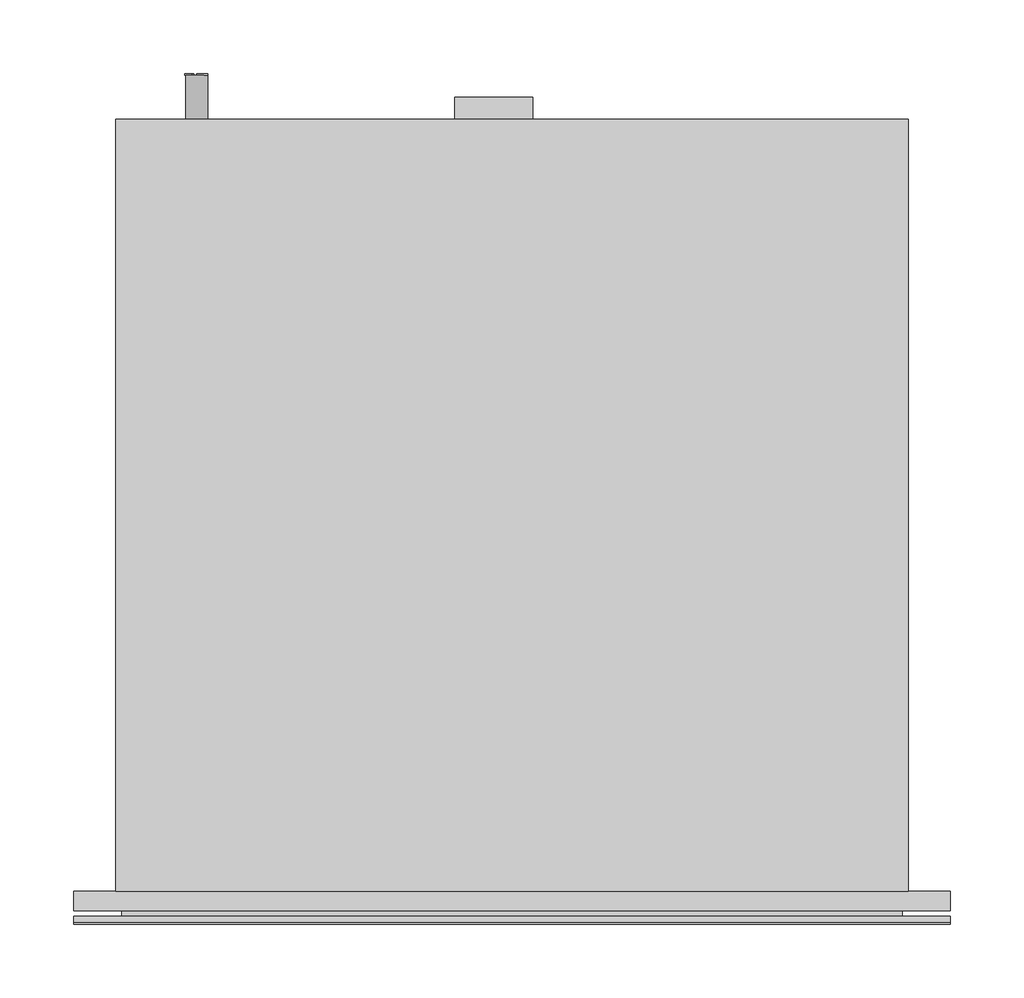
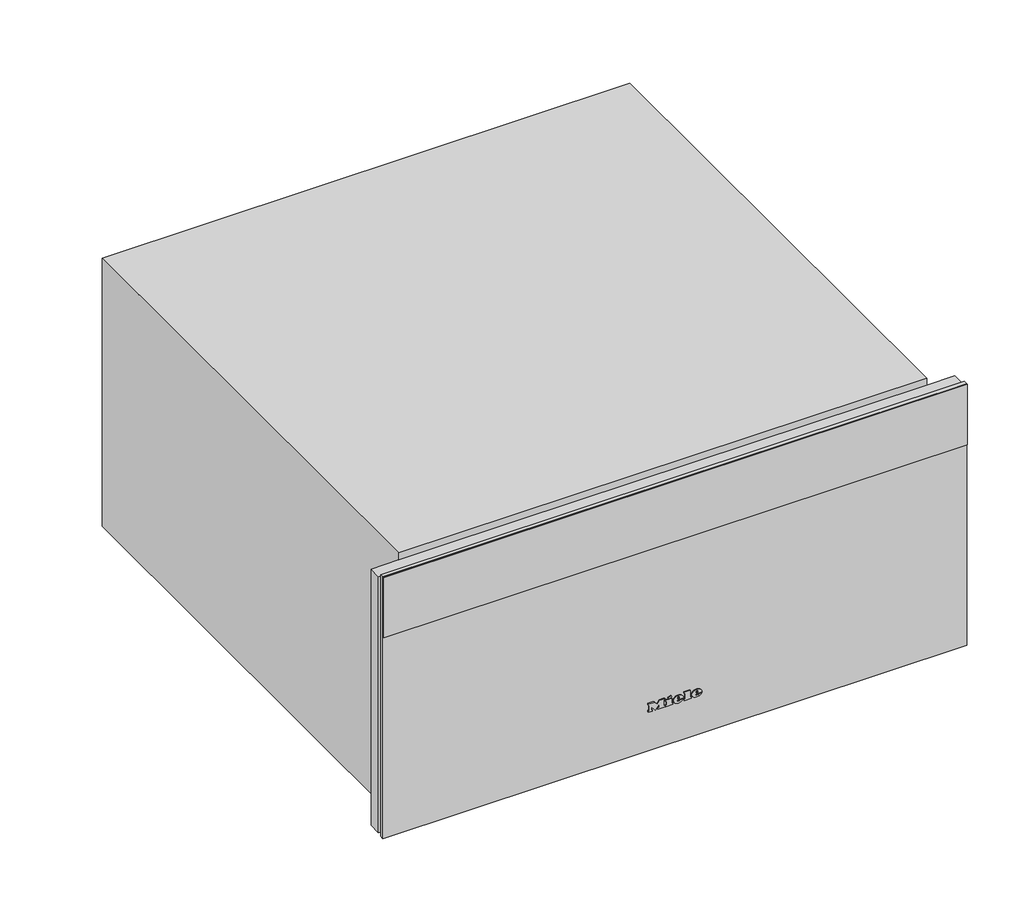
# Not in any storey: 1 proxy.
"""IFC4 building model written with IfcOpenShell, lengths in millimetres."""

import ifcopenshell
import ifcopenshell.guid

model = None  # the IFC model being written
_history = None  # IfcOwnerHistory: only IFC2X3 demands one
_inside = {}  # id of a spatial element -> (the spatial element, [elements in it])
_under = {}  # id of a project, library or spatial element -> (it, [spatial elements below it])
_declared = {}  # id of a project -> (the project, [libraries it declares])
_typed = {}  # id of a type object -> (the type object, [elements of that type])
_made_of = {}  # id of a material, layer set ... -> (it, [elements and type objects made of it])


def new_model(schema):
    """Start an empty IFC model of exactly this schema.

    Asked for "IFC4X3", IfcOpenShell would pick the latest addendum, in which some entities
    have other attributes; the version numbers below select the first issue.
    IFC2X3 requires an IfcOwnerHistory on every rooted entity: one is made here for all.
    """
    global model, _history
    if schema == "IFC4X3":
        model = ifcopenshell.file(schema_version=(4, 3, 0, 0))
    else:
        model = ifcopenshell.file(schema=schema)
    _inside.clear()
    _under.clear()
    _declared.clear()
    _typed.clear()
    _made_of.clear()
    _history = None
    if model.schema == "IFC2X3":
        org = make("IfcOrganization", Name="unknown")
        user = make(
            "IfcPersonAndOrganization",
            ThePerson=make("IfcPerson", FamilyName="unknown"),
            TheOrganization=org,
        )
        app = make(
            "IfcApplication",
            ApplicationDeveloper=org,
            Version="unknown",
            ApplicationFullName="unknown",
            ApplicationIdentifier="unknown",
        )
        _history = make(
            "IfcOwnerHistory",
            OwningUser=user,
            OwningApplication=app,
            ChangeAction="ADDED",
            CreationDate=0,
        )
    return model


def make(cls, **values):
    """One entity of the class cls with the attributes given. An attribute that is None is left unset."""
    return model.create_entity(
        cls, **{name: value for name, value in values.items() if value is not None}
    )


def rooted(cls, **values):
    """An entity with a GlobalId (a new one), such as an element, a storey or a relation."""
    return make(cls, GlobalId=ifcopenshell.guid.new(), OwnerHistory=_history, **values)


def si_unit(unit_type, name, prefix=None):
    """IfcSIUnit, for example si_unit("LENGTHUNIT", "METRE", prefix="MILLI")."""
    return make("IfcSIUnit", UnitType=unit_type, Prefix=prefix, Name=name)


def assignment(units):
    """IfcUnitAssignment: the units of a project."""
    return None if units is None else make("IfcUnitAssignment", Units=units)


def point(xyz):
    """IfcCartesianPoint."""
    return None if xyz is None else make("IfcCartesianPoint", Coordinates=xyz)


def direction(xyz):
    """IfcDirection."""
    return None if xyz is None else make("IfcDirection", DirectionRatios=xyz)


def frame(location, z_axis=None, x_axis=None):
    """IfcAxis2Placement3D, a coordinate frame: its origin and axes. An axis left out is left unset."""
    return make(
        "IfcAxis2Placement3D",
        Location=point(location),
        Axis=direction(z_axis),
        RefDirection=direction(x_axis),
    )


def frame_2d(location, x_axis=None):
    """IfcAxis2Placement2D, a coordinate frame in the plane: its origin and x axis."""
    return make(
        "IfcAxis2Placement2D", Location=point(location), RefDirection=direction(x_axis)
    )


def origin():
    """The frame at (0, 0, 0) with its axes left unset."""
    return frame((0.0, 0.0, 0.0))


def place(relative_to, where):
    """IfcLocalPlacement: puts the frame where relative to a parent placement (None: the world)."""
    return make(
        "IfcLocalPlacement", PlacementRelTo=relative_to, RelativePlacement=where
    )


def context(
    kind, dimensions, precision=None, world=None, true_north=None, identifier=None
):
    """IfcGeometricRepresentationContext, for example the 3D "Model" context."""
    return make(
        "IfcGeometricRepresentationContext",
        ContextIdentifier=identifier,
        ContextType=kind,
        CoordinateSpaceDimension=dimensions,
        Precision=precision,
        WorldCoordinateSystem=world,
        TrueNorth=true_north,
    )


def project(units=None, contexts=None):
    """IfcProject with its units and contexts."""
    return rooted(
        "IfcProject",
        Name="project",
        RepresentationContexts=contexts,
        UnitsInContext=assignment(units),
    )


def spatial(cls, under=None, at=None, **own):
    """A site, building, storey or space (cls), placed at a placement, below another one or the project."""
    s = rooted(cls, ObjectPlacement=at, **own)
    if under is not None:
        _under.setdefault(under.id(), (under, []))[1].append(s)
    return s


def polyline(points):
    """IfcPolyline through the points."""
    return make("IfcPolyline", Points=[point(p) for p in points])


def circle_curve(where, radius):
    """IfcCircle in the frame where."""
    return make("IfcCircle", Position=where, Radius=radius)


def ellipse_curve(where, semi_axis1, semi_axis2):
    """IfcEllipse in the frame where."""
    return make(
        "IfcEllipse", Position=where, SemiAxis1=semi_axis1, SemiAxis2=semi_axis2
    )


def trimmed(basis, trim1, trim2, sense, master):
    """IfcTrimmedCurve: the piece of a basis curve between two trims."""
    return make(
        "IfcTrimmedCurve",
        BasisCurve=basis,
        Trim1=trim1,
        Trim2=trim2,
        SenseAgreement=sense,
        MasterRepresentation=master,
    )


def segment(curve, same_sense, transition):
    """IfcCompositeCurveSegment."""
    return make(
        "IfcCompositeCurveSegment",
        Transition=transition,
        SameSense=same_sense,
        ParentCurve=curve,
    )


def composite_curve(segments, self_intersect=None):
    """IfcCompositeCurve: segments joined end to end."""
    return make("IfcCompositeCurve", Segments=segments, SelfIntersect=self_intersect)


def outline(outer, holes=None, kind="AREA"):
    """IfcArbitraryClosedProfileDef: a profile drawn as a closed curve; with holes, ...WithVoids."""
    if holes is None:
        return make("IfcArbitraryClosedProfileDef", ProfileType=kind, OuterCurve=outer)
    return make(
        "IfcArbitraryProfileDefWithVoids",
        ProfileType=kind,
        OuterCurve=outer,
        InnerCurves=holes,
    )


def extrude(swept, where, along, depth):
    """IfcExtrudedAreaSolid: the profile swept, set in the frame where, extruded along a direction by depth."""
    return make(
        "IfcExtrudedAreaSolid",
        SweptArea=swept,
        Position=where,
        ExtrudedDirection=direction(along),
        Depth=depth,
    )


def faces_of(points, faces, orient=None, outer=None):
    """IfcFace entities. A face is a list of loops; a loop is a list of indices into points, from 0.

    orient and outer hold one flag for each loop. By default every Orientation is true, the
    first loop of a face is its IfcFaceOuterBound and the others are IfcFaceBound.
    """
    made = []
    for i, loops in enumerate(faces):
        bounds = []
        for j, loop in enumerate(loops):
            is_outer = j == 0 if outer is None else outer[i][j]
            bounds.append(
                make(
                    "IfcFaceOuterBound" if is_outer else "IfcFaceBound",
                    Bound=make("IfcPolyLoop", Polygon=[points[k] for k in loop]),
                    Orientation=True if orient is None else orient[i][j],
                )
            )
        made.append(make("IfcFace", Bounds=bounds))
    return made


def faceted_brep(points, faces, orient=None, outer=None, voids=None):
    """IfcFacetedBrep: a solid bounded by flat faces; with voids (closed shells), ...WithVoids."""
    shared = [point(p) for p in points]
    hull = make("IfcClosedShell", CfsFaces=faces_of(shared, faces, orient, outer))
    if voids is None:
        return make("IfcFacetedBrep", Outer=hull)
    return make(
        "IfcFacetedBrepWithVoids",
        Outer=hull,
        Voids=[
            make(cls, CfsFaces=faces_of(shared, fs, o, b)) for cls, fs, o, b in voids
        ],
    )


def shape(context_of_items, identifier, shape_type, items):
    """IfcShapeRepresentation: the items that make up one representation, for example the "Body"."""
    return make(
        "IfcShapeRepresentation",
        ContextOfItems=context_of_items,
        RepresentationIdentifier=identifier,
        RepresentationType=shape_type,
        Items=items,
    )


def source(mapping_origin, context_of_items, identifier, shape_type, items):
    """IfcRepresentationMap: a shape defined once, which mapped items show again and again."""
    return make(
        "IfcRepresentationMap",
        MappingOrigin=mapping_origin,
        MappedRepresentation=shape(context_of_items, identifier, shape_type, items),
    )


def transform(
    local_origin,
    x_axis=None,
    y_axis=None,
    z_axis=None,
    scale=None,
    scale2=None,
    scale3=None,
    uniform=True,
):
    """IfcCartesianTransformationOperator3D, or its non-uniform kind. x_axis, y_axis, z_axis: its Axis1, 2, 3."""
    if uniform:
        return make(
            "IfcCartesianTransformationOperator3D",
            Axis1=direction(x_axis),
            Axis2=direction(y_axis),
            LocalOrigin=point(local_origin),
            Scale=scale,
            Axis3=direction(z_axis),
        )
    return make(
        "IfcCartesianTransformationOperator3DnonUniform",
        Axis1=direction(x_axis),
        Axis2=direction(y_axis),
        LocalOrigin=point(local_origin),
        Scale=scale,
        Axis3=direction(z_axis),
        Scale2=scale2,
        Scale3=scale3,
    )


def mapped(mapping_source, mapping_target):
    """IfcMappedItem: shows the shape of a source again, moved by a transform."""
    return make(
        "IfcMappedItem", MappingSource=mapping_source, MappingTarget=mapping_target
    )


def made_of(thing, what):
    """Note that an element or type object is made of a material, layer set ...; save() writes the relation."""
    if what is not None:
        _made_of.setdefault(what.id(), (what, []))[1].append(thing)
    return thing


def element(
    cls,
    number,
    at=None,
    inside=None,
    cuts=None,
    type_object=None,
    material=None,
    context=None,
    identifier="Body",
    shape_type=None,
    held_by="IfcProductDefinitionShape",
    body=None,
    shapes=None,
    **own,
):
    """One element of the class cls, such as IfcWall. Its Tag is "e" and its number.

    at: its placement. inside: the storey or other place that contains it. cuts: it is an
    opening in that element (IfcRelVoidsElement). A single representation is given by context,
    identifier, shape_type and body (its items); several are given by shapes. held_by: the class
    of the entity that holds the representations. save() writes the other relations.
    """
    e = rooted(cls, Tag="e%d" % number, ObjectPlacement=at, **own)
    if body is not None:
        shapes = [shape(context, identifier, shape_type, body)]
    if shapes is not None:
        e.Representation = make(held_by, Representations=shapes)
    if inside is not None:
        _inside.setdefault(inside.id(), (inside, []))[1].append(e)
    if cuts is not None:
        rooted(
            "IfcRelVoidsElement", RelatingBuildingElement=cuts, RelatedOpeningElement=e
        )
    if type_object is not None:
        _typed.setdefault(type_object.id(), (type_object, []))[1].append(e)
    return made_of(e, material)


def aggregate(whole, parts):
    """IfcRelAggregates: a whole, such as a stair, and the parts it consists of."""
    return rooted("IfcRelAggregates", RelatingObject=whole, RelatedObjects=parts)


def save(model, path):
    """Write the relations noted so far, then the file.

    IfcRelAggregates (storeys below a building ...), IfcRelContainedInSpatialStructure (elements
    in a storey), IfcRelDefinesByType, IfcRelAssociatesMaterial and IfcRelDeclares: one each for
    every whole, place, type object, material and project.
    """
    for whole, parts in _under.values():
        aggregate(whole, parts)
    for where, things in _inside.values():
        rooted(
            "IfcRelContainedInSpatialStructure",
            RelatedElements=things,
            RelatingStructure=where,
        )
    for kind, things in _typed.values():
        rooted("IfcRelDefinesByType", RelatedObjects=things, RelatingType=kind)
    for what, things in _made_of.values():
        rooted("IfcRelAssociatesMaterial", RelatedObjects=things, RelatingMaterial=what)
    for by, libraries in _declared.values():
        rooted("IfcRelDeclares", RelatingContext=by, RelatedDefinitions=libraries)
    model.write(path)


def plane_surface(at):
    """IfcPlane: the flat surface through the origin of the frame at, square to its z axis."""
    return make("IfcPlane", Position=at)


def cylinder_surface(at, radius):
    """IfcCylindricalSurface: all points at the distance radius from the z axis of the frame at."""
    return make("IfcCylindricalSurface", Position=at, Radius=radius)


def revolved_surface(curve, axis_point, axis_direction):
    """IfcSurfaceOfRevolution: the curve turned about the line through axis_point along axis_direction."""
    return make(
        "IfcSurfaceOfRevolution",
        SweptCurve=make("IfcArbitraryOpenProfileDef", ProfileType="CURVE", Curve=curve),
        AxisPosition=make("IfcAxis1Placement", Location=point(axis_point), Axis=direction(axis_direction)),
    )


def extruded_surface(curve, direction_of_extrusion, depth):
    """IfcSurfaceOfLinearExtrusion: the curve pushed along a direction by depth."""
    return make(
        "IfcSurfaceOfLinearExtrusion",
        SweptCurve=make("IfcArbitraryOpenProfileDef", ProfileType="CURVE", Curve=curve),
        ExtrudedDirection=direction(direction_of_extrusion),
        Depth=depth,
    )


def advanced_brep(points, edges, surfaces, faces):
    """IfcAdvancedBrep: a solid bounded by faces that lie on surfaces and meet in shared edges.

    An edge is (start, end): straight between two places in points (the first is 0);
    or (start, end, curve); or (start, end, curve, False) where it runs against its curve.
    A face is (place in surfaces, loops), or (place, loops, False) where it looks against
    its surface's normal. A loop lists edges by number (the first is 1), with a minus sign
    where the edge is run from its end to its start. The first loop is the outer one.
    """
    corners = [point(p) for p in points]
    vertices = [make("IfcVertexPoint", VertexGeometry=c) for c in corners]
    made = []
    for start, end, *more in edges:
        made.append(
            make(
                "IfcEdgeCurve",
                EdgeStart=vertices[start],
                EdgeEnd=vertices[end],
                EdgeGeometry=more[0] if more else make("IfcPolyline", Points=[corners[start], corners[end]]),
                SameSense=more[1] if len(more) > 1 else True,
            )
        )
    hull = []
    for where, loops, *sense in faces:
        bounds = []
        for j, loop in enumerate(loops):
            ring = [make("IfcOrientedEdge", EdgeElement=made[abs(k) - 1], Orientation=k > 0) for k in loop]
            bounds.append(
                make(
                    "IfcFaceOuterBound" if j == 0 else "IfcFaceBound",
                    Bound=make("IfcEdgeLoop", EdgeList=ring),
                    Orientation=True,
                )
            )
        hull.append(make("IfcAdvancedFace", Bounds=bounds, FaceSurface=surfaces[where], SameSense=sense[0] if sense else True))
    return make("IfcAdvancedBrep", Outer=make("IfcClosedShell", CfsFaces=hull))


def specialty_equipment_abaaba5e(model_context):
    return source(origin(), model_context, "Body", "SolidModel", [
        advanced_brep(
        [(21.28, -22.0, 48.133), (21.28, -22.0, 49.042), (27.301, -22.0, 49.042), (16.825, -22.0, 49.042), (19.3, -22.0, 46.0), (27.148, -22.0, 48.133), (24.43, -22.0, 48.133), (22.288, -22.0, 47.125), (21.28, -22.0, 50.194), (21.28, -22.0, 51.175), (22.819, -22.0, 51.175), (22.819, -22.0, 50.194), (21.28, -21.0, 48.133), (22.288, -21.0, 47.125), (24.43, -21.0, 48.133), (27.148, -21.0, 48.133), (19.3, -21.0, 46.0), (16.825, -21.0, 49.042), (27.301, -21.0, 49.042), (21.28, -21.0, 49.042), (21.28, -21.0, 50.194), (22.819, -21.0, 50.194), (22.819, -21.0, 51.175), (21.28, -21.0, 51.175)],
        [
            (0, 1),
            (1, 2),
            (2, 3, ellipse_curve(frame((22.063, -22.0, 49.042), z_axis=(0.0, -1.0, 0.0), x_axis=(-1.0, 0.0, 0.0)), 5.238, 4.329)),
            (3, 4, circle_curve(frame((20.3080491, -22.0, 49.348), z_axis=(0.0, -1.0, 0.0), x_axis=(0.0, 0.0, -1.0)), 3.4964649)),
            (4, 5, circle_curve(frame((21.9581428, -22.0, 51.724), z_axis=(0.0, -1.0, 0.0), x_axis=(0.0, 0.0, -1.0)), 6.3110933)),
            (5, 6),
            (6, 7, circle_curve(frame((22.7279412, -22.0, 48.97), z_axis=(0.0, 1.0, 0.0), x_axis=(0.0, 0.0, -1.0)), 1.896727)),
            (7, 0, circle_curve(frame((22.288, -22.0, 48.133), z_axis=(0.0, 1.0, 0.0), x_axis=(0.0, 0.0, -1.0)), 1.008)),
            (8, 9),
            (9, 10, circle_curve(frame((22.0495, -22.0, 51.175), z_axis=(0.0, 1.0, 0.0), x_axis=(0.0, 0.0, -1.0)), 0.7695)),
            (10, 11),
            (11, 8),
            (12, 13, circle_curve(frame((22.288, -21.0, 48.133), z_axis=(0.0, -1.0, 0.0), x_axis=(0.0, 0.0, -1.0)), 1.008)),
            (13, 14, circle_curve(frame((22.7279412, -21.0, 48.97), z_axis=(0.0, -1.0, 0.0), x_axis=(0.0, 0.0, -1.0)), 1.896727)),
            (14, 15),
            (15, 16, circle_curve(frame((21.9581428, -21.0, 51.724), z_axis=(0.0, 1.0, 0.0), x_axis=(0.0, 0.0, -1.0)), 6.3110933)),
            (16, 17, circle_curve(frame((20.3080491, -21.0, 49.348), z_axis=(0.0, 1.0, 0.0), x_axis=(0.0, 0.0, -1.0)), 3.4964649)),
            (17, 18, ellipse_curve(frame((22.063, -21.0, 49.042), z_axis=(0.0, 1.0, 0.0), x_axis=(-1.0, 0.0, 0.0)), 5.238, 4.329)),
            (18, 19),
            (19, 12),
            (20, 21),
            (21, 22),
            (22, 23, circle_curve(frame((22.0495, -21.0, 51.175), z_axis=(0.0, -1.0, 0.0), x_axis=(0.0, 0.0, -1.0)), 0.7695)),
            (23, 20),
            (0, 12),
            (19, 1),
            (18, 2),
            (5, 15),
            (14, 6),
            (17, 3),
            (13, 7),
            (16, 4),
            (8, 20),
            (23, 9),
            (22, 10),
            (21, 11),
        ],
        [
            plane_surface(frame((21.28, -22.0, 49.042), z_axis=(0.0, -1.0, 0.0), x_axis=(0.0, 0.0, 1.0))),
            plane_surface(frame((21.28, -21.0, 49.042), z_axis=(0.0, 1.0, 0.0), x_axis=(0.0, 0.0, -1.0))),
            plane_surface(frame((21.28, -22.0, 48.133), z_axis=(1.0, 0.0, 0.0), x_axis=(0.0, 1.0, 0.0))),
            plane_surface(frame((21.28, -22.0, 49.042), z_axis=(0.0, 0.0, -1.0), x_axis=(0.0, 1.0, 0.0))),
            plane_surface(frame((27.148, -22.0, 48.133), z_axis=(0.0, 0.0, 1.0), x_axis=(0.0, 1.0, 0.0))),
            extruded_surface(trimmed(ellipse_curve(frame((22.063, -20.0, 49.042), z_axis=(0.0, -1.0, 0.0), x_axis=(-1.0, 0.0, 0.0)), 5.238, 4.329), [point((27.301, -20.0, 49.042))], [point((16.825, -20.0, 49.042))], True, "CARTESIAN"), (0.0, -1.0, 0.0), 1.0),
            revolved_surface(polyline([(22.7279412, -21.0, 47.073273), (22.7279412, -22.0, 47.073273)]), (22.7279412, -21.0, 48.97), (0.0, 1.0, 0.0)),
            revolved_surface(polyline([(22.288, -21.0, 47.125), (22.288, -22.0, 47.125)]), (22.288, -21.0, 48.133), (0.0, 1.0, 0.0)),
            cylinder_surface(frame((20.3080491, -21.0, 49.348), z_axis=(0.0, -1.0, 0.0), x_axis=(0.0, 0.0, -1.0)), 3.4964649),
            cylinder_surface(frame((21.9581428, -21.0, 51.724), z_axis=(0.0, -1.0, 0.0), x_axis=(0.0, 0.0, -1.0)), 6.3110933),
            plane_surface(frame((21.28, -22.0, 50.194), z_axis=(1.0, 0.0, 0.0), x_axis=(0.0, 1.0, 0.0))),
            revolved_surface(polyline([(22.0495, -21.0, 50.405499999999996), (22.0495, -22.0, 50.405499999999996)]), (22.0495, -21.0, 51.175), (0.0, 1.0, 0.0)),
            plane_surface(frame((22.819, -22.0, 51.175), z_axis=(-1.0, 0.0, 0.0), x_axis=(0.0, 1.0, 0.0))),
            plane_surface(frame((22.819, -22.0, 50.194), z_axis=(0.0, 0.0, 1.0), x_axis=(0.0, 1.0, 0.0))),
        ],
        [
            (0, [[1, 2, 3, 4, 5, 6, 7, 8], [9, 10, 11, 12]]),
            (1, [[13, 14, 15, 16, 17, 18, 19, 20], [21, 22, 23, 24]]),
            (2, [[-1, 25, -20, 26]]),
            (3, [[-2, -26, -19, 27]]),
            (4, [[-6, 28, -15, 29]]),
            (5, [[-3, -27, -18, 30]]),
            (6, [[-7, -29, -14, 31]]),
            (7, [[-8, -31, -13, -25]]),
            (8, [[-4, -30, -17, 32]]),
            (9, [[-5, -32, -16, -28]]),
            (10, [[-9, 33, -24, 34]]),
            (11, [[-10, -34, -23, 35]]),
            (12, [[-11, -35, -22, 36]]),
            (13, [[-12, -36, -21, -33]]),
        ],
    ),
        advanced_brep(
        [(2.497, -22.0, 48.133), (2.497, -22.0, 49.042), (8.518, -22.0, 49.042), (-1.958, -22.0, 49.042), (0.517, -22.0, 46.0), (8.365, -22.0, 48.133), (5.647, -22.0, 48.133), (3.505, -22.0, 47.125), (2.497, -22.0, 50.194), (2.497, -22.0, 51.175), (4.036, -22.0, 51.175), (4.036, -22.0, 50.194), (2.497, -21.0, 48.133), (3.505, -21.0, 47.125), (5.647, -21.0, 48.133), (8.365, -21.0, 48.133), (0.517, -21.0, 46.0), (-1.958, -21.0, 49.042), (8.518, -21.0, 49.042), (2.497, -21.0, 49.042), (2.497, -21.0, 50.194), (4.036, -21.0, 50.194), (4.036, -21.0, 51.175), (2.497, -21.0, 51.175)],
        [
            (0, 1),
            (1, 2),
            (2, 3, ellipse_curve(frame((3.28, -22.0, 49.042), z_axis=(0.0, -1.0, 0.0), x_axis=(-1.0, 0.0, 0.0)), 5.238, 4.329)),
            (3, 4, circle_curve(frame((1.5250491, -22.0, 49.348), z_axis=(0.0, -1.0, 0.0), x_axis=(0.0, 0.0, -1.0)), 3.4964649)),
            (4, 5, circle_curve(frame((3.1751428, -22.0, 51.724), z_axis=(0.0, -1.0, 0.0), x_axis=(0.0, 0.0, -1.0)), 6.3110933)),
            (5, 6),
            (6, 7, circle_curve(frame((3.9449412, -22.0, 48.97), z_axis=(0.0, 1.0, 0.0), x_axis=(0.0, 0.0, -1.0)), 1.896727)),
            (7, 0, circle_curve(frame((3.505, -22.0, 48.133), z_axis=(0.0, 1.0, 0.0), x_axis=(0.0, 0.0, -1.0)), 1.008)),
            (8, 9),
            (9, 10, circle_curve(frame((3.2665, -22.0, 51.175), z_axis=(0.0, 1.0, 0.0), x_axis=(0.0, 0.0, -1.0)), 0.7695)),
            (10, 11),
            (11, 8),
            (12, 13, circle_curve(frame((3.505, -21.0, 48.133), z_axis=(0.0, -1.0, 0.0), x_axis=(0.0, 0.0, -1.0)), 1.008)),
            (13, 14, circle_curve(frame((3.9449412, -21.0, 48.97), z_axis=(0.0, -1.0, 0.0), x_axis=(0.0, 0.0, -1.0)), 1.896727)),
            (14, 15),
            (15, 16, circle_curve(frame((3.1751428, -21.0, 51.724), z_axis=(0.0, 1.0, 0.0), x_axis=(0.0, 0.0, -1.0)), 6.3110933)),
            (16, 17, circle_curve(frame((1.5250491, -21.0, 49.348), z_axis=(0.0, 1.0, 0.0), x_axis=(0.0, 0.0, -1.0)), 3.4964649)),
            (17, 18, ellipse_curve(frame((3.28, -21.0, 49.042), z_axis=(0.0, 1.0, 0.0), x_axis=(-1.0, 0.0, 0.0)), 5.238, 4.329)),
            (18, 19),
            (19, 12),
            (20, 21),
            (21, 22),
            (22, 23, circle_curve(frame((3.2665, -21.0, 51.175), z_axis=(0.0, -1.0, 0.0), x_axis=(0.0, 0.0, -1.0)), 0.7695)),
            (23, 20),
            (0, 12),
            (19, 1),
            (18, 2),
            (5, 15),
            (14, 6),
            (17, 3),
            (13, 7),
            (16, 4),
            (8, 20),
            (23, 9),
            (22, 10),
            (21, 11),
        ],
        [
            plane_surface(frame((2.497, -22.0, 49.042), z_axis=(0.0, -1.0, 0.0), x_axis=(0.0, 0.0, 1.0))),
            plane_surface(frame((2.497, -21.0, 49.042), z_axis=(0.0, 1.0, 0.0), x_axis=(0.0, 0.0, -1.0))),
            plane_surface(frame((2.497, -22.0, 48.133), z_axis=(1.0, 0.0, 0.0), x_axis=(0.0, 1.0, 0.0))),
            plane_surface(frame((2.497, -22.0, 49.042), z_axis=(0.0, 0.0, -1.0), x_axis=(0.0, 1.0, 0.0))),
            plane_surface(frame((8.365, -22.0, 48.133), z_axis=(0.0, 0.0, 1.0), x_axis=(0.0, 1.0, 0.0))),
            extruded_surface(trimmed(ellipse_curve(frame((3.28, -20.0, 49.042), z_axis=(0.0, -1.0, 0.0), x_axis=(-1.0, 0.0, 0.0)), 5.238, 4.329), [point((8.518, -20.0, 49.042))], [point((-1.958, -20.0, 49.042))], True, "CARTESIAN"), (0.0, -1.0, 0.0), 1.0),
            revolved_surface(polyline([(3.9449412, -21.0, 47.073273), (3.9449412, -22.0, 47.073273)]), (3.9449412, -21.0, 48.97), (0.0, 1.0, 0.0)),
            revolved_surface(polyline([(3.505, -21.0, 47.125), (3.505, -22.0, 47.125)]), (3.505, -21.0, 48.133), (0.0, 1.0, 0.0)),
            cylinder_surface(frame((1.5250491, -21.0, 49.348), z_axis=(0.0, -1.0, 0.0), x_axis=(0.0, 0.0, -1.0)), 3.4964649),
            cylinder_surface(frame((3.1751428, -21.0, 51.724), z_axis=(0.0, -1.0, 0.0), x_axis=(0.0, 0.0, -1.0)), 6.3110933),
            plane_surface(frame((2.497, -22.0, 50.194), z_axis=(1.0, 0.0, 0.0), x_axis=(0.0, 1.0, 0.0))),
            revolved_surface(polyline([(3.2665, -21.0, 50.405499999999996), (3.2665, -22.0, 50.405499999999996)]), (3.2665, -21.0, 51.175), (0.0, 1.0, 0.0)),
            plane_surface(frame((4.036, -22.0, 51.175), z_axis=(-1.0, 0.0, 0.0), x_axis=(0.0, 1.0, 0.0))),
            plane_surface(frame((4.036, -22.0, 50.194), z_axis=(0.0, 0.0, 1.0), x_axis=(0.0, 1.0, 0.0))),
        ],
        [
            (0, [[1, 2, 3, 4, 5, 6, 7, 8], [9, 10, 11, 12]]),
            (1, [[13, 14, 15, 16, 17, 18, 19, 20], [21, 22, 23, 24]]),
            (2, [[-1, 25, -20, 26]]),
            (3, [[-2, -26, -19, 27]]),
            (4, [[-6, 28, -15, 29]]),
            (5, [[-3, -27, -18, 30]]),
            (6, [[-7, -29, -14, 31]]),
            (7, [[-8, -31, -13, -25]]),
            (8, [[-4, -30, -17, 32]]),
            (9, [[-5, -32, -16, -28]]),
            (10, [[-9, 33, -24, 34]]),
            (11, [[-10, -34, -23, 35]]),
            (12, [[-11, -35, -22, 36]]),
            (13, [[-12, -36, -21, -33]]),
        ],
    ),
        extrude(outline(polyline([(54.469, -7.34), (53.011, -6.656), (54.433, -3.605), (55.891, -4.28), (54.469, -7.34)])), frame((0.0, -22.0, 0.0), z_axis=(0.0, 1.0, 0.0), x_axis=(0.0, 0.0, 1.0)), (0.0, 0.0, 1.0), 1.0),
        extrude(outline(polyline([(52.813, -9.563), (51.202, -9.563), (51.202, -8.492), (47.512, -8.492), (47.512, -9.563), (46.0, -9.563), (46.0, -2.462), (47.512, -2.462), (47.512, -3.506), (52.813, -3.506), (52.813, -9.563)])), frame((0.0, -22.0, 0.0), z_axis=(0.0, 1.0, 0.0), x_axis=(0.0, 0.0, 1.0)), (0.0, 0.0, 1.0), 1.0),
        extrude(outline(polyline([(53.533, 9.022), (53.533, 10.102), (47.512, 10.102), (47.512, 9.022), (46.0, 9.022), (46.0, 16.321), (47.512, 16.321), (47.512, 15.214), (55.0, 15.214), (55.0, 9.022), (53.533, 9.022)])), frame((0.0, -22.0, 0.0), z_axis=(0.0, 1.0, 0.0), x_axis=(0.0, 0.0, 1.0)), (0.0, 0.0, 1.0), 1.0),
        extrude(outline(polyline([(53.533, -27.5), (53.533, -26.411), (47.512, -26.411), (47.512, -27.5), (46.0, -27.5), (46.0, -23.54), (47.512, -23.54), (47.512, -24.62), (51.3341247, -24.62), (46.0, -20.597), (51.4402223, -16.556), (47.512, -16.556), (47.512, -17.663), (46.0, -17.663), (46.0, -10.481), (47.512, -10.481), (47.512, -11.624), (53.533, -11.624), (53.533, -10.481), (55.0, -10.481), (55.0, -15.962), (51.625, -18.59), (55.0, -21.227), (55.0, -27.5), (53.533, -27.5)])), frame((0.0, -22.0, 0.0), z_axis=(0.0, 1.0, 0.0), x_axis=(0.0, 0.0, 1.0)), (0.0, 0.0, 1.0), 1.0),
        extrude(outline(polyline([(-297.5, -17.0), (297.5, -17.0), (297.5, -21.0), (-297.5, -21.0), (-297.5, -17.0)])), frame((0.0, 0.0, 4.0), z_axis=(0.0, 0.0, 1.0), x_axis=(1.0, 0.0, 0.0)), (0.0, 0.0, 1.0), 282.0),
        extrude(outline(polyline([(-297.5, -21.0), (297.5, -21.0), (297.5, -22.3), (-297.5, -22.3), (-297.5, -21.0)])), frame((0.0, 0.0, 221.0), z_axis=(0.0, 0.0, 1.0), x_axis=(1.0, 0.0, 0.0)), (0.0, 0.0, 1.0), 65.0),
        extrude(outline(polyline([(-13.0, 10.0), (-13.0, 274.0), (19.0, 274.0), (19.0, 233.0), (4.0, 233.0), (4.0, 10.0), (-13.0, 10.0)])), frame((-261.0, 0.0, 0.0), z_axis=(1.0, 0.0, 0.0), x_axis=(0.0, 1.0, 0.0)), (0.0, 0.0, 1.0), 522.0),
        extrude(outline(polyline([(-265.0, -13.0), (265.0, -13.0), (265.0, -17.0), (-265.0, -17.0), (-265.0, -13.0)])), frame((0.0, 0.0, 6.0), z_axis=(0.0, 0.0, 1.0), x_axis=(1.0, 0.0, 0.0)), (0.0, 0.0, 1.0), 273.0),
        extrude(outline(polyline([(24.045335, -206.6203116), (24.045335, -213.8439827), (22.7898265, -213.8439827), (22.7898265, -207.876825), (19.8076572, -207.876825), (19.8076572, -213.5281281), (18.5519876, -213.5281281), (18.5519876, -207.876825), (15.2564531, -207.876825), (15.2564531, -213.8439827), (14.0, -213.8439827), (14.0, -206.6203116), (24.045335, -206.6203116)])), frame((0.0, 554.0, 0.0), z_axis=(0.0, 1.0, 0.0), x_axis=(0.0, 0.0, 1.0)), (0.0, 0.0, 1.0), 1.0),
        extrude(outline(polyline([(24.0461611, -217.1431874), (15.255243, -217.1431874), (15.255243, -222.1617362), (13.9997538, -222.1617362), (13.9997538, -217.1431874), (13.9997538, -215.8823011), (24.0461611, -215.8823011), (24.0461611, -217.1431874)])), frame((0.0, 554.0, 0.0), z_axis=(0.0, 1.0, 0.0), x_axis=(0.0, 0.0, 1.0)), (0.0, 0.0, 1.0), 1.0),
        extrude(outline(composite_curve([segment(trimmed(circle_curve(frame_2d((19.0, -214.0)), 7.5), [point((19.0, -206.5))], [point((19.0, -221.5))], False, "CARTESIAN"), True, "CONTINUOUS"), segment(trimmed(circle_curve(frame_2d((19.0, -214.0)), 7.5), [point((19.0, -221.5))], [point((19.0, -206.5))], False, "CARTESIAN"), True, "CONTINUOUS")], self_intersect=False)), frame((0.0, 524.0, 0.0), z_axis=(0.0, 1.0, 0.0), x_axis=(0.0, 0.0, 1.0)), (0.0, 0.0, 1.0), 30.0),
        faceted_brep([(269.0, 524.0, 289.0), (269.0, 524.0, 0.0), (-269.0, 524.0, 0.0), (-269.0, 524.0, 289.0), (269.0, 0.0, 289.0), (269.0, 0.0, 281.5), (269.0, 0.0, 5.5), (269.0, 0.0, 0.0), (-269.0, 0.0, 0.0), (-269.0, 0.0, 5.5), (-269.0, 0.0, 281.5), (-269.0, 0.0, 289.0), (-297.5, 0.0, 281.5), (-297.5, -13.0, 281.5), (297.5, -13.0, 281.5), (297.5, 0.0, 281.5), (-267.0, 0.0, 5.5), (-267.0, -13.0, 5.5), (-297.5, -13.0, 5.5), (-297.5, 0.0, 5.5), (267.0, 0.0, 5.5), (297.5, 0.0, 5.5), (297.5, -13.0, 5.5), (267.0, -13.0, 5.5), (-267.0, -13.0, 279.0), (267.0, -13.0, 279.0), (267.0, 522.0, 279.0), (-267.0, 522.0, 279.0), (-267.0, 522.0, 6.0), (267.0, 522.0, 6.0), (-267.0, 0.0, 6.0), (267.0, 0.0, 6.0)], [[[0, 1, 2, 3]], [[1, 0, 4, 5, 6, 7]], [[3, 2, 8, 9, 10, 11]], [[5, 10, 12, 13, 14, 15]], [[10, 5, 4, 11]], [[9, 16, 17, 18, 19]], [[20, 6, 21, 22, 23]], [[12, 10, 9, 19]], [[5, 15, 21, 6]], [[14, 13, 18, 17, 24, 25, 23, 22]], [[15, 14, 22, 21]], [[13, 12, 19, 18]], [[26, 27, 28, 29]], [[29, 28, 30, 31]], [[27, 26, 25, 24]], [[30, 16, 9, 8, 7, 6, 20, 31]], [[2, 1, 7, 8]], [[0, 3, 11, 4]], [[17, 16, 30, 28, 27, 24]], [[25, 26, 29, 31, 20, 23]]]),
        extrude(outline(polyline([(-39.0, 539.0), (14.0, 539.0), (14.0, 524.0), (-39.0, 524.0), (-39.0, 539.0)])), frame((0.0, 0.0, 4.0), z_axis=(0.0, 0.0, 1.0), x_axis=(1.0, 0.0, 0.0)), (0.0, 0.0, 1.0), 29.0),
    ])


model = new_model("IFC4")

# Units and contexts
model_context = context("Model", 3, world=origin())
ifc_project = project(units=[si_unit("LENGTHUNIT", "METRE", prefix="MILLI")], contexts=[model_context])

# Site, building
site = spatial("IfcSite", under=ifc_project)
building = spatial("IfcBuilding", under=site)

# Proxy
placement = place(None, origin())
specialty_equipment_shape = specialty_equipment_abaaba5e(model_context)
element("IfcBuildingElementProxy", 1, Name="11171380_NL_ESW7020_EDST-CLST : 30702040_NL_11171380_ESW7020_EDST-CLST", ObjectType="11171380_NL_ESW7020_EDST-CLST : 30702040_NL_11171380_ESW7020_EDST-CLST", at=placement, inside=building, context=model_context, shape_type="MappedRepresentation", body=[
    mapped(specialty_equipment_shape, transform((0.0, 0.0, 0.0), x_axis=(1.0, 0.0, 0.0), y_axis=(0.0, 1.0, 0.0), z_axis=(0.0, 0.0, 1.0))),
])

save(model, "model.ifc")
